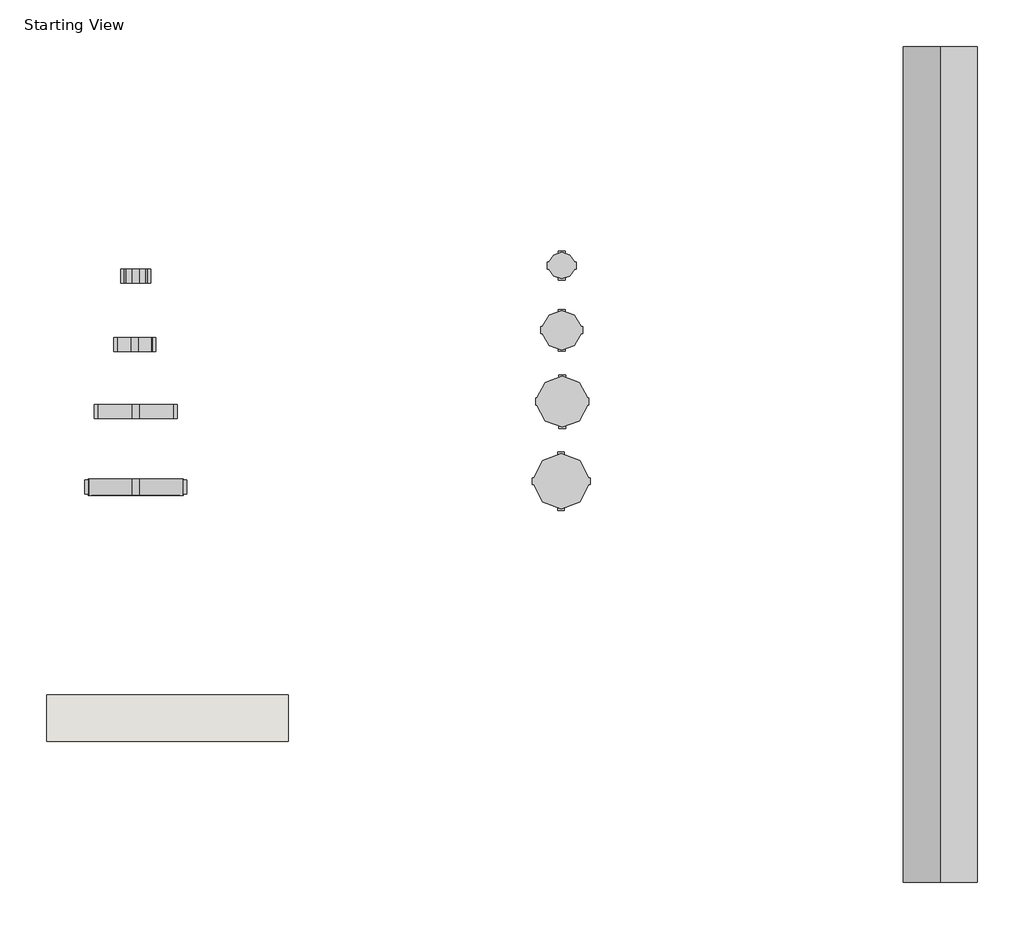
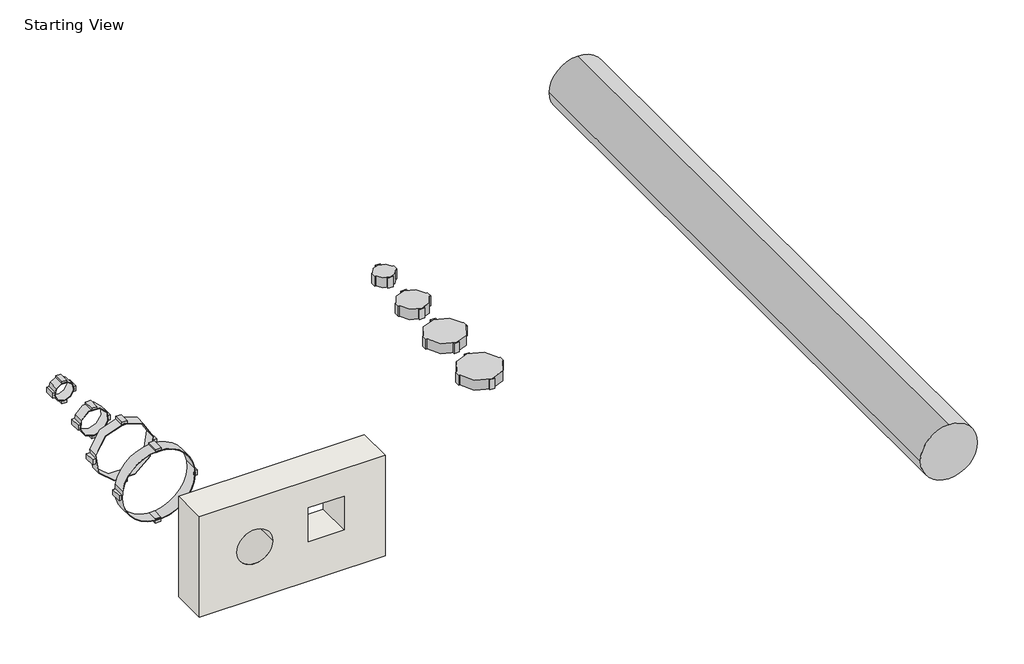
# One storey, incomplete: 8 pipe fittings, 1 pipe segment, 1 wall.
"""IFC4 building model written with IfcOpenShell, lengths in millimetres."""

from ifc_helpers import new_model, si_unit, point, frame, frame_2d, origin, place, context, project, spatial, polyline, circle_curve, trimmed, segment, composite_curve, outline, extrude, transform, mapped, element, save
from components import pipe_fitting_100mm_fdddaf2e, pipe_fitting_160mm_c2188202, pipe_fitting_200mm_55e5a060, pipe_fitting_50mm_5bbf13a5, pipe_fitting_50mm_8b020d9f, pipe_fitting_70mm_64366088, pipe_fitting_75mm_203993a5, pipe_fitting_90mm_3d6ca8c2

model = new_model("IFC4")

# Units and contexts
model_context = context("Model", 3, world=origin())
ifc_project = project(units=[si_unit("LENGTHUNIT", "METRE", prefix="MILLI")], contexts=[model_context])

# Site, building, storey
site = spatial("IfcSite", under=ifc_project)
building = spatial("IfcBuilding", under=site)
storey = spatial("IfcBuildingStorey", under=building, Name="Starting View", Elevation=0.0)

# Pipe fittings
placement = place(None, origin())
pipe_fitting_100mm_shape = pipe_fitting_100mm_fdddaf2e(model_context)
element("IfcPipeFitting", 1, ObjectType="AmancoWavin_Accesoriosdetubería_AS+_Abrazadera : 100mm", at=placement, inside=storey, context=model_context, shape_type="MappedRepresentation", body=[
    mapped(pipe_fitting_100mm_shape, transform((10838.0422354, 4250.9103188, 0.0), x_axis=(1.0, 0.0, 0.0), y_axis=(0.0, 1.0, 0.0), z_axis=(0.0, 0.0, 1.0))),
])
pipe_fitting_160mm_shape = pipe_fitting_160mm_c2188202(model_context)
element("IfcPipeFitting", 2, ObjectType="AmancoWavin_Accesoriosdetubería_AS+_Soporte : 160mm", at=placement, inside=storey, context=model_context, shape_type="MappedRepresentation", body=[
    mapped(pipe_fitting_160mm_shape, transform((9922.2061862, 4401.4340394, 0.0), x_axis=(1.0, 0.0, 0.0), y_axis=(0.0, 1.0, 0.0), z_axis=(0.0, 0.0, 1.0))),
])
pipe_fitting_200mm_shape = pipe_fitting_200mm_55e5a060(model_context)
element("IfcPipeFitting", 3, ObjectType="AmancoWavin_Accesoriosdetubería_AS+_Soporte : 200mm", at=placement, inside=storey, context=model_context, shape_type="MappedRepresentation", body=[
    mapped(pipe_fitting_200mm_shape, transform((9921.9163526, 4238.2620409, 0.0), x_axis=(1.0, 0.0, 0.0), y_axis=(0.0, 1.0, 0.0), z_axis=(0.0, 0.0, 1.0))),
])
pipe_fitting_50mm_shape = pipe_fitting_50mm_5bbf13a5(model_context)
element("IfcPipeFitting", 4, ObjectType="AmancoWavin_Accesoriosdetubería_AS+_Abrazadera : 50mm", at=placement, inside=storey, context=model_context, shape_type="MappedRepresentation", body=[
    mapped(pipe_fitting_50mm_shape, transform((10839.2701588, 4715.5756839, 0.0), x_axis=(1.0, 0.0, 0.0), y_axis=(0.0, 1.0, 0.0), z_axis=(0.0, 0.0, 1.0))),
])
pipe_fitting_50mm_2_shape = pipe_fitting_50mm_8b020d9f(model_context)
element("IfcPipeFitting", 5, ObjectType="AmancoWavin_Accesoriosdetubería_AS+_Soporte : 50mm", at=placement, inside=storey, context=model_context, shape_type="MappedRepresentation", body=[
    mapped(pipe_fitting_50mm_2_shape, transform((9921.9163526, 4693.2605594, 0.0), x_axis=(1.0, 0.0, 0.0), y_axis=(0.0, 1.0, 0.0), z_axis=(0.0, 0.0, 1.0))),
])
pipe_fitting_70mm_shape = pipe_fitting_70mm_64366088(model_context)
element("IfcPipeFitting", 6, ObjectType="AmancoWavin_Accesoriosdetubería_AS+_Abrazadera : 70mm", at=placement, inside=storey, context=model_context, shape_type="MappedRepresentation", body=[
    mapped(pipe_fitting_70mm_shape, transform((10839.2701588, 4576.1259721, 0.0), x_axis=(1.0, 0.0, 0.0), y_axis=(0.0, 1.0, 0.0), z_axis=(0.0, 0.0, 1.0))),
])
pipe_fitting_75mm_shape = pipe_fitting_75mm_203993a5(model_context)
element("IfcPipeFitting", 7, ObjectType="AmancoWavin_Accesoriosdetubería_AS+_Soporte : 75mm", at=placement, inside=storey, context=model_context, shape_type="MappedRepresentation", body=[
    mapped(pipe_fitting_75mm_shape, transform((9920.1530747, 4545.1209423, 0.0), x_axis=(1.0, 0.0, 0.0), y_axis=(0.0, 1.0, 0.0), z_axis=(0.0, 0.0, 1.0))),
])
pipe_fitting_90mm_shape = pipe_fitting_90mm_3d6ca8c2(model_context)
element("IfcPipeFitting", 8, ObjectType="AmancoWavin_Accesoriosdetubería_AS+_Abrazadera : 90mm", at=placement, inside=storey, context=model_context, shape_type="MappedRepresentation", body=[
    mapped(pipe_fitting_90mm_shape, transform((10840.2701588, 4422.3655279, 0.0), x_axis=(1.0, 0.0, 0.0), y_axis=(0.0, 1.0, 0.0), z_axis=(0.0, 0.0, 1.0))),
])

# Pipe segment
element("IfcPipeSegment", 9, ObjectType="AmancoWavin_Tuberías_AS+", at=placement, inside=storey, context=model_context, shape_type="SweptSolid", body=[
    extrude(outline(composite_curve([segment(trimmed(circle_curve(frame_2d((0.0, 11654.3034428)), 80.0), [point((0.0, 11574.3034428))], [point((-80.0, 11654.3034428))], False, "CARTESIAN"), True, "CONTINUOUS"), segment(trimmed(circle_curve(frame_2d((0.0, 11654.3034428)), 80.0), [point((-80.0, 11654.3034428))], [point((0.0, 11734.3034428))], False, "CARTESIAN"), True, "CONTINUOUS"), segment(trimmed(circle_curve(frame_2d((0.0, 11654.3034428)), 80.0), [point((0.0, 11734.3034428))], [point((80.0, 11654.3034428))], False, "CARTESIAN"), True, "CONTINUOUS"), segment(trimmed(circle_curve(frame_2d((0.0, 11654.3034428)), 80.0), [point((80.0, 11654.3034428))], [point((0.0, 11574.3034428))], False, "CARTESIAN"), True, "CONTINUOUS")], self_intersect=False)), frame((0.0, 3387.4121967, 0.0), z_axis=(0.0, 1.0, 0.0), x_axis=(0.0, 0.0, 1.0)), (0.0, 0.0, 1.0), 1800.0),
])

# Wall
element("IfcWall", 10, ObjectType="Wall 1", at=placement, inside=storey, context=model_context, shape_type="SweptSolid", body=[
    extrude(outline(polyline([(0.0, 9729.9409514), (0.0, 10249.9409514), (296.5968372, 10249.9409514), (296.5968372, 9729.9409514), (0.0, 9729.9409514)]), holes=[composite_curve([segment(trimmed(circle_curve(frame_2d((154.4282969, 9884.9409514)), 50.0), [point((154.4282969, 9934.9409514))], [point((154.4282969, 9834.9409514))], True, "CARTESIAN"), True, "CONTINUOUS"), segment(trimmed(circle_curve(frame_2d((154.4282969, 9884.9409514)), 50.0), [point((154.4282969, 9834.9409514))], [point((154.4282969, 9934.9409514))], True, "CARTESIAN"), True, "CONTINUOUS")], self_intersect=False), polyline([(116.4896004, 10134.9409514), (116.4896004, 10034.9409514), (216.4896004, 10034.9409514), (216.4896004, 10134.9409514), (116.4896004, 10134.9409514)])]), frame((0.0, 3690.4051663, 0.0), z_axis=(0.0, 1.0, 0.0), x_axis=(0.0, 0.0, 1.0)), (0.0, 0.0, 1.0), 100.0),
])

save(model, "model.ifc")
